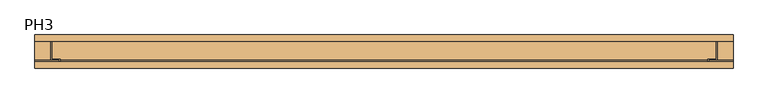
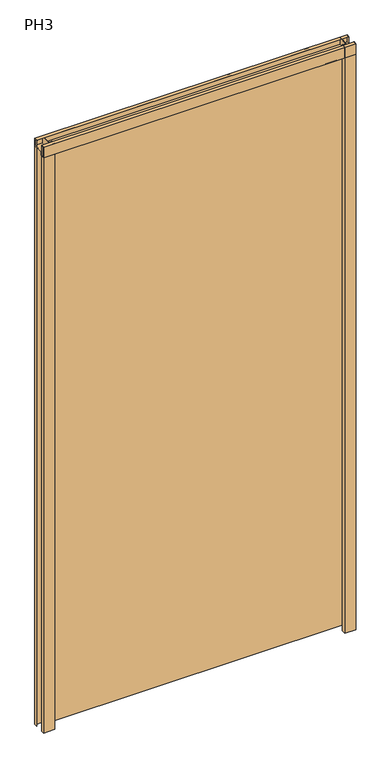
"""IFC4 building model written with IfcOpenShell, lengths in millimetres: door geometry, Puerta Metalica-lisa : PH3."""

from ifc_helpers import new_model, si_unit, frame, origin, origin_with_axes, place, context, project, spatial, polyline, outline, extrude, source, transform, mapped, element, save


def ph3_8ca4f0ef(model_context):
    return source(origin(), model_context, "Body", "SweptSolid", [
        extrude(outline(polyline([(15.4, 2100.0), (25.4, 2100.0), (25.4, 2074.6), (-11.6, 2074.6), (-11.6, 2061.9), (-25.4, 2061.9), (-25.4, 2100.0), (-15.4, 2100.0), (-15.4, 2099.0), (-24.4, 2099.0), (-24.4, 2062.9), (-12.6, 2062.9), (-12.6, 2075.6), (24.4, 2075.6), (24.4, 2099.0), (15.4, 2099.0), (15.4, 2100.0)])), frame((-530.0, 0.0, 0.0), z_axis=(1.0, 0.0, 0.0), x_axis=(0.0, 1.0, 0.0)), (0.0, 0.0, 1.0), 1060.0),
        extrude(outline(polyline([(-468.5, 22.9), (-468.5, -8.6), (-500.0, -8.6), (-500.0, 22.9), (-468.5, 22.9)])), frame((0.0, 0.0, 20.0), z_axis=(0.0, 0.0, 1.0), x_axis=(1.0, 0.0, 0.0)), (0.0, 0.0, 1.0), 2041.9),
        extrude(outline(polyline([(468.5, 22.9), (500.0, 22.9), (500.0, -8.6), (468.5, -8.6), (468.5, 22.9)])), frame((0.0, 0.0, 20.0), z_axis=(0.0, 0.0, 1.0), x_axis=(1.0, 0.0, 0.0)), (0.0, 0.0, 1.0), 2041.9),
        extrude(outline(polyline([(500.0, 25.4), (500.0, 22.9), (-500.0, 22.9), (-500.0, 25.4), (500.0, 25.4)])), frame((0.0, 0.0, 20.0), z_axis=(0.0, 0.0, 1.0), x_axis=(1.0, 0.0, 0.0)), (0.0, 0.0, 1.0), 2054.6),
        extrude(outline(polyline([(-500.0, -11.1), (-500.0, -8.6), (500.0, -8.6), (500.0, -11.1), (-500.0, -11.1)])), frame((0.0, 0.0, 20.0), z_axis=(0.0, 0.0, 1.0), x_axis=(1.0, 0.0, 0.0)), (0.0, 0.0, 1.0), 2054.6),
        extrude(outline(polyline([(-530.0, 15.4), (-530.0, 25.4), (-504.6, 25.4), (-504.6, -11.6), (-491.9, -11.6), (-491.9, -25.4), (-530.0, -25.4), (-530.0, -15.4), (-529.0, -15.4), (-529.0, -24.4), (-492.9, -24.4), (-492.9, -12.6), (-505.6, -12.6), (-505.6, 24.4), (-529.0, 24.4), (-529.0, 15.4), (-530.0, 15.4)])), origin_with_axes(), (0.0, 0.0, 1.0), 2100.0),
        extrude(outline(polyline([(530.0, 15.4), (529.0, 15.4), (529.0, 24.4), (505.6, 24.4), (505.6, -12.6), (492.9, -12.6), (492.9, -24.4), (529.0, -24.4), (529.0, -15.4), (530.0, -15.4), (530.0, -25.4), (491.9, -25.4), (491.9, -11.6), (504.6, -11.6), (504.6, 25.4), (530.0, 25.4), (530.0, 15.4)])), origin_with_axes(), (0.0, 0.0, 1.0), 2100.0),
    ])


if __name__ == "__main__":
    model = new_model("IFC4")
    model_context = context("Model", 3, world=origin())
    ifc_project = project(units=[si_unit("LENGTHUNIT", "METRE", prefix="MILLI")], contexts=[model_context])
    site = spatial("IfcSite", under=ifc_project)
    building = spatial("IfcBuilding", under=site)
    placement = place(None, origin())
    ph3_shape = ph3_8ca4f0ef(model_context)
    element("IfcDoor", 1, ObjectType="Puerta Metalica-lisa : PH3", at=placement, inside=building, context=model_context, shape_type="MappedRepresentation", body=[
        mapped(ph3_shape, transform((0.0, 0.0, 0.0), x_axis=(1.0, 0.0, 0.0), y_axis=(0.0, 1.0, 0.0), z_axis=(0.0, 0.0, 1.0))),
    ])
    save(model, "model.ifc")
